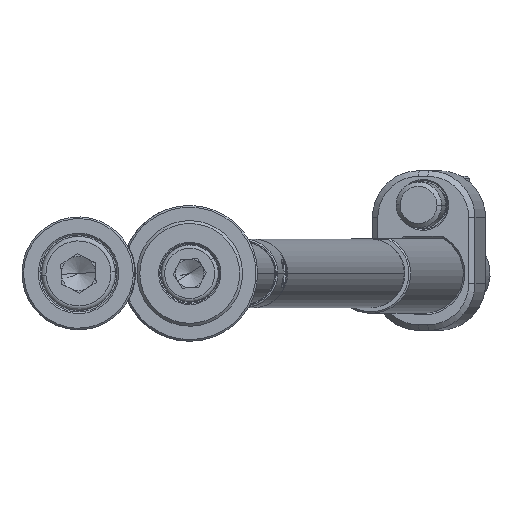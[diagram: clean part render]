
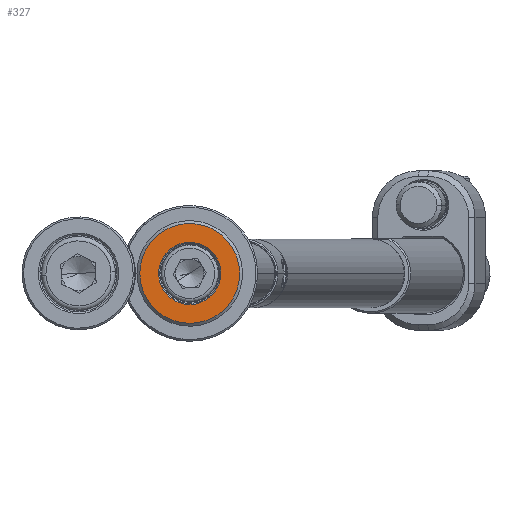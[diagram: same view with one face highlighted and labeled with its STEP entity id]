
A CAD part, front view. The second image highlights one B-rep face of the part: STEP entity #327.
In plain terms, the highlighted planar face has unit normal (0, -1, 0).
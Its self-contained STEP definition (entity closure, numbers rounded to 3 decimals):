
#215 = DIRECTION ( 'NONE',  ( -0.505, 0., 0.863 ) ) ;
#327 = ADVANCED_FACE ( 'NONE', ( #12431, #9282 ), #402, .F. ) ;
#371 = ORIENTED_EDGE ( 'NONE', *, *, #3342, .T. ) ;
#402 = PLANE ( 'NONE',  #3396 ) ;
#1059 = DIRECTION ( 'NONE',  ( -0.505, 0., 0.863 ) ) ;
#1135 = EDGE_CURVE ( 'NONE', #8390, #12148, #13417, .T. ) ;
#1430 = DIRECTION ( 'NONE',  ( -0.505, 0., 0.863 ) ) ;
#1570 = AXIS2_PLACEMENT_3D ( 'NONE', #3757, #5841, #215 ) ;
#1574 = EDGE_CURVE ( 'NONE', #8714, #7506, #3444, .T. ) ;
#3342 = EDGE_CURVE ( 'NONE', #7506, #8714, #4568, .T. ) ;
#3374 = CARTESIAN_POINT ( 'NONE',  ( 0., -4., 0. ) ) ;
#3396 = AXIS2_PLACEMENT_3D ( 'NONE', #10256, #4801, #13677 ) ;
#3444 = CIRCLE ( 'NONE', #14122, 5.45 ) ;
#3757 = CARTESIAN_POINT ( 'NONE',  ( 0., -4., 0. ) ) ;
#4144 = ORIENTED_EDGE ( 'NONE', *, *, #5886, .T. ) ;
#4568 = CIRCLE ( 'NONE', #1570, 5.45 ) ;
#4801 = DIRECTION ( 'NONE',  ( 0., 1., 0. ) ) ;
#4897 = DIRECTION ( 'NONE',  ( 0., 1., 0. ) ) ;
#5509 = AXIS2_PLACEMENT_3D ( 'NONE', #3374, #11140, #1059 ) ;
#5841 = DIRECTION ( 'NONE',  ( 0., 1., 0. ) ) ;
#5886 = EDGE_CURVE ( 'NONE', #12148, #8390, #8127, .T. ) ;
#6236 = EDGE_LOOP ( 'NONE', ( #12654, #371 ) ) ;
#6732 = CARTESIAN_POINT ( 'NONE',  ( 0., -4., 0. ) ) ;
#6935 = CARTESIAN_POINT ( 'NONE',  ( 2.753, -4., -4.704 ) ) ;
#6975 = AXIS2_PLACEMENT_3D ( 'NONE', #6732, #10081, #10152 ) ;
#7116 = ORIENTED_EDGE ( 'NONE', *, *, #1135, .T. ) ;
#7506 = VERTEX_POINT ( 'NONE', #11435 ) ;
#8127 = CIRCLE ( 'NONE', #6975, 8.75 ) ;
#8390 = VERTEX_POINT ( 'NONE', #8891 ) ;
#8714 = VERTEX_POINT ( 'NONE', #6935 ) ;
#8891 = CARTESIAN_POINT ( 'NONE',  ( -4.42, -4., 7.552 ) ) ;
#9282 = FACE_OUTER_BOUND ( 'NONE', #13525, .T. ) ;
#10081 = DIRECTION ( 'NONE',  ( 0., -1., 0. ) ) ;
#10152 = DIRECTION ( 'NONE',  ( -0.505, 0., 0.863 ) ) ;
#10256 = CARTESIAN_POINT ( 'NONE',  ( -4.531, -4., -2.652 ) ) ;
#10692 = CARTESIAN_POINT ( 'NONE',  ( 4.42, -4., -7.552 ) ) ;
#11140 = DIRECTION ( 'NONE',  ( 0., -1., 0. ) ) ;
#11435 = CARTESIAN_POINT ( 'NONE',  ( -2.753, -4., 4.704 ) ) ;
#12148 = VERTEX_POINT ( 'NONE', #10692 ) ;
#12201 = CARTESIAN_POINT ( 'NONE',  ( 0., -4., 0. ) ) ;
#12431 = FACE_BOUND ( 'NONE', #6236, .T. ) ;
#12654 = ORIENTED_EDGE ( 'NONE', *, *, #1574, .T. ) ;
#13417 = CIRCLE ( 'NONE', #5509, 8.75 ) ;
#13525 = EDGE_LOOP ( 'NONE', ( #7116, #4144 ) ) ;
#13677 = DIRECTION ( 'NONE',  ( -0.505, 0., 0.863 ) ) ;
#14122 = AXIS2_PLACEMENT_3D ( 'NONE', #12201, #4897, #1430 ) ;
